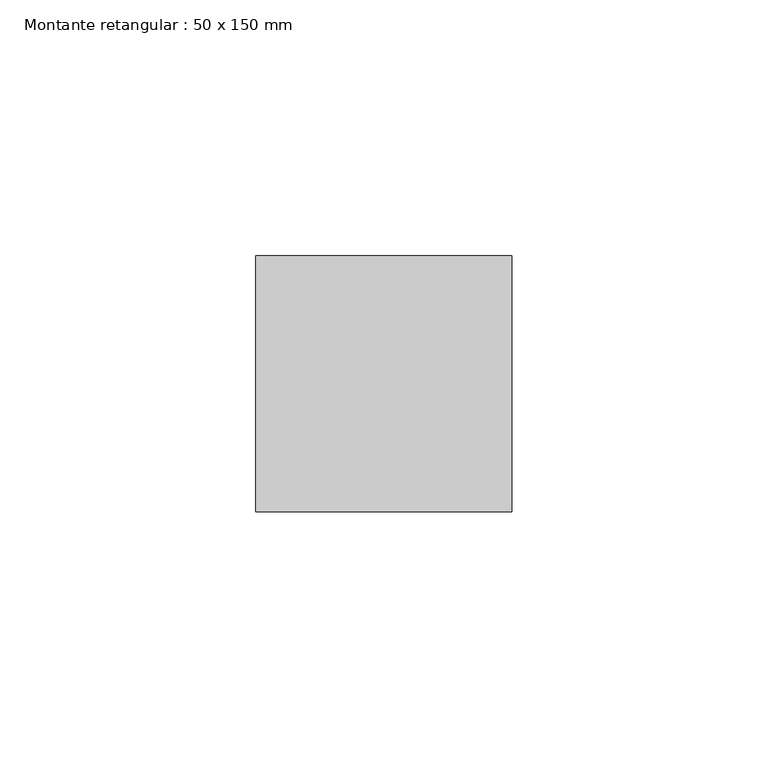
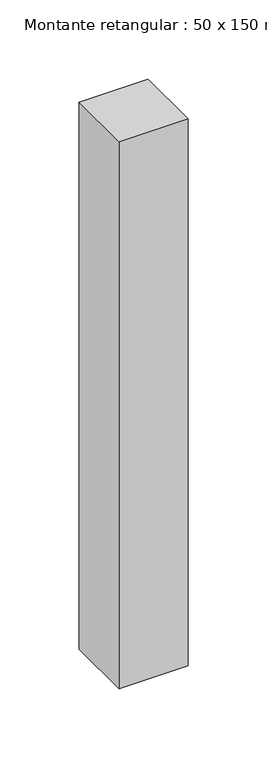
"""IFC4 building model written with IfcOpenShell, lengths in millimetres: member geometry, Montante retangular : 50 x 150 mm."""

from ifc_helpers import new_model, si_unit, frame, origin, place, context, project, spatial, polyline, outline, extrude, source, transform, mapped, element, save


def montante_retangular_50_x_150_mm_f8a16b1b(model_context):
    return source(origin(), model_context, "Body", "SweptSolid", [
        extrude(outline(polyline([(0.0, 25.0), (0.0, -25.0), (-50.0, -25.0), (-50.0, 25.0), (0.0, 25.0)])), frame((0.0, 0.0, -420.0), z_axis=(0.0, 0.0, 1.0), x_axis=(1.0, 0.0, 0.0)), (0.0, 0.0, 1.0), 420.0),
    ])


if __name__ == "__main__":
    model = new_model("IFC4")
    model_context = context("Model", 3, world=origin())
    ifc_project = project(units=[si_unit("LENGTHUNIT", "METRE", prefix="MILLI")], contexts=[model_context])
    site = spatial("IfcSite", under=ifc_project)
    building = spatial("IfcBuilding", under=site)
    placement = place(None, origin())
    montante_retangular_50_x_150_mm_shape = montante_retangular_50_x_150_mm_f8a16b1b(model_context)
    element("IfcMember", 1, ObjectType="Montante retangular : 50 x 150 mm", at=placement, inside=building, context=model_context, shape_type="MappedRepresentation", body=[
        mapped(montante_retangular_50_x_150_mm_shape, transform((0.0, 0.0, 0.0), x_axis=(1.0, 0.0, 0.0), y_axis=(0.0, 1.0, 0.0), z_axis=(0.0, 0.0, 1.0))),
    ])
    save(model, "model.ifc")
